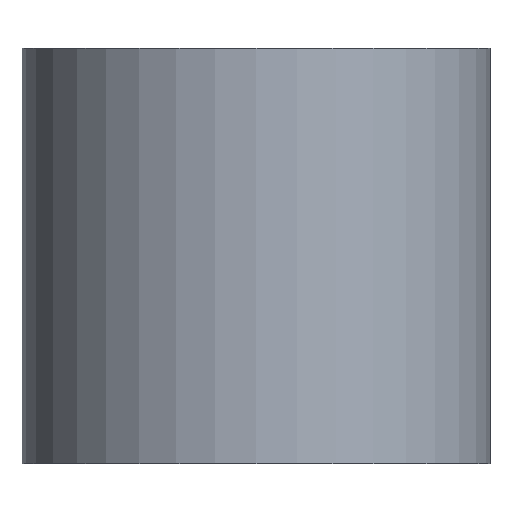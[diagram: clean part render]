
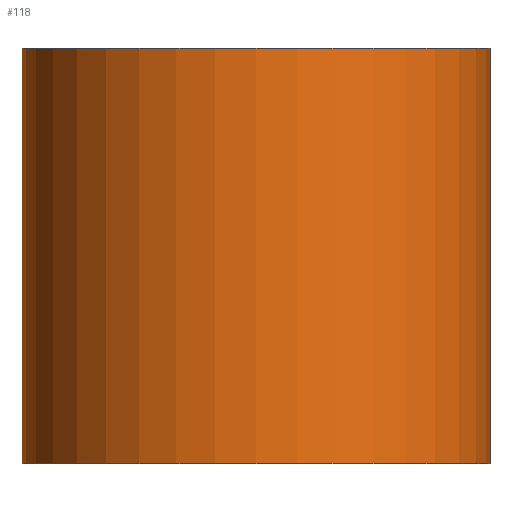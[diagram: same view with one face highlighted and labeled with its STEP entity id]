
A CAD part, front view. The second image highlights one B-rep face of the part: STEP entity #118.
In plain terms, the highlighted cylindrical face has radius 45 mm (diameter 90 mm), a partial arc.
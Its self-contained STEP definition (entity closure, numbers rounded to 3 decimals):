
#100=CYLINDRICAL_SURFACE('',#199,45.);
#104=FACE_OUTER_BOUND('',#132,.T.);
#107=LINE('',#257,#111);
#108=LINE('',#258,#112);
#111=VECTOR('',#228,1.);
#112=VECTOR('',#229,1.);
#118=ADVANCED_FACE('',(#104),#100,.T.);
#132=EDGE_LOOP('',(#153,#154,#155,#156));
#153=ORIENTED_EDGE('',*,*,#175,.F.);
#154=ORIENTED_EDGE('',*,*,#174,.T.);
#155=ORIENTED_EDGE('',*,*,#176,.T.);
#156=ORIENTED_EDGE('',*,*,#165,.F.);
#157=VERTEX_POINT('',#236);
#158=VERTEX_POINT('',#237);
#163=VERTEX_POINT('',#253);
#164=VERTEX_POINT('',#254);
#165=EDGE_CURVE('',#157,#158,#177,.T.);
#174=EDGE_CURVE('',#164,#163,#184,.T.);
#175=EDGE_CURVE('',#164,#157,#107,.T.);
#176=EDGE_CURVE('',#163,#158,#108,.T.);
#177=CIRCLE('',#186,45.);
#184=CIRCLE('',#196,45.);
#186=AXIS2_PLACEMENT_3D('',#235,#202,#203);
#196=AXIS2_PLACEMENT_3D('',#255,#224,#225);
#199=AXIS2_PLACEMENT_3D('',#260,#232,#233);
#202=DIRECTION('',(0.,0.,1.));
#203=DIRECTION('',(0.,1.,0.));
#224=DIRECTION('',(0.,0.,1.));
#225=DIRECTION('',(0.,1.,0.));
#228=DIRECTION('',(0.,0.,1.));
#229=DIRECTION('',(0.,0.,1.));
#232=DIRECTION('',(0.,0.,1.));
#233=DIRECTION('',(0.,-1.,0.));
#235=CARTESIAN_POINT('',(0.,0.,80.));
#236=CARTESIAN_POINT('',(-45.,0.,80.));
#237=CARTESIAN_POINT('',(45.,0.,80.));
#253=CARTESIAN_POINT('',(45.,0.,0.));
#254=CARTESIAN_POINT('',(-45.,0.,0.));
#255=CARTESIAN_POINT('',(0.,0.,0.));
#257=CARTESIAN_POINT('',(-45.,0.,80.));
#258=CARTESIAN_POINT('',(45.,0.,80.));
#260=CARTESIAN_POINT('',(0.,0.,0.));
